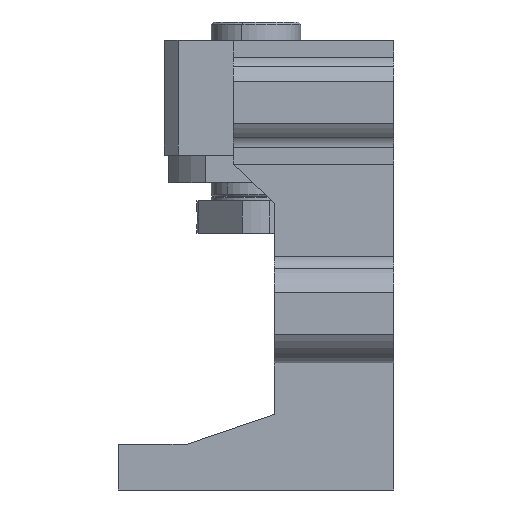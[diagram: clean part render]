
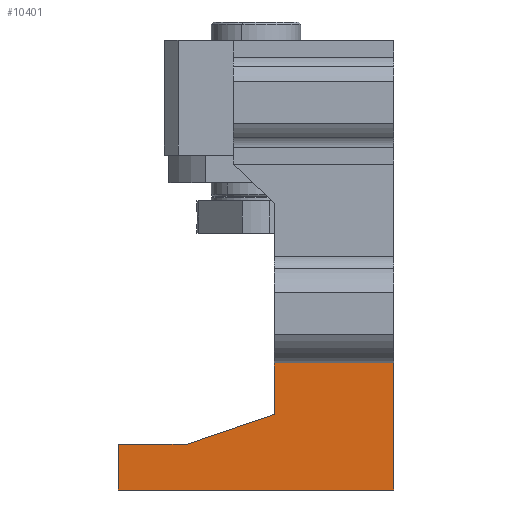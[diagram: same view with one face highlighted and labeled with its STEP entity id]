
A CAD part, left-side view. The second image highlights one B-rep face of the part: STEP entity #10401.
In plain terms, the highlighted planar face has unit normal (-1, 0, 0).
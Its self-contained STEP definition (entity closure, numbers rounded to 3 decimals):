
#122 = EDGE_CURVE ( 'NONE', #1136, #415, #8837, .T. ) ;
#349 = VECTOR ( 'NONE', #8079, 1000. ) ;
#356 = EDGE_CURVE ( 'NONE', #1846, #5336, #10335, .T. ) ;
#415 = VERTEX_POINT ( 'NONE', #10148 ) ;
#854 = ORIENTED_EDGE ( 'NONE', *, *, #2672, .F. ) ;
#871 = CARTESIAN_POINT ( 'NONE',  ( -32., 15., -82. ) ) ;
#1136 = VERTEX_POINT ( 'NONE', #1315 ) ;
#1280 = CARTESIAN_POINT ( 'NONE',  ( -32., -30., -92. ) ) ;
#1315 = CARTESIAN_POINT ( 'NONE',  ( -32., 30., -92. ) ) ;
#1362 = LINE ( 'NONE', #8493, #4214 ) ;
#1392 = CARTESIAN_POINT ( 'NONE',  ( -32., -4., -64.317 ) ) ;
#1417 = ORIENTED_EDGE ( 'NONE', *, *, #6461, .F. ) ;
#1579 = DIRECTION ( 'NONE',  ( 0., 0., -1. ) ) ;
#1846 = VERTEX_POINT ( 'NONE', #1392 ) ;
#1951 = DIRECTION ( 'NONE',  ( 0., -0.946, 0.324 ) ) ;
#2104 = ORIENTED_EDGE ( 'NONE', *, *, #356, .T. ) ;
#2310 = AXIS2_PLACEMENT_3D ( 'NONE', #8362, #13761, #7372 ) ;
#2465 = CARTESIAN_POINT ( 'NONE',  ( -32., -30., -82. ) ) ;
#2672 = EDGE_CURVE ( 'NONE', #12606, #5336, #7145, .T. ) ;
#2858 = LINE ( 'NONE', #2465, #4703 ) ;
#3021 = ORIENTED_EDGE ( 'NONE', *, *, #122, .T. ) ;
#3087 = VERTEX_POINT ( 'NONE', #4716 ) ;
#3512 = LINE ( 'NONE', #5898, #349 ) ;
#4214 = VECTOR ( 'NONE', #9559, 1000. ) ;
#4297 = VECTOR ( 'NONE', #1951, 1000. ) ;
#4703 = VECTOR ( 'NONE', #6681, 1000. ) ;
#4716 = CARTESIAN_POINT ( 'NONE',  ( -32., 30., -82. ) ) ;
#4727 = CARTESIAN_POINT ( 'NONE',  ( -32., -4., -59. ) ) ;
#4883 = CARTESIAN_POINT ( 'NONE',  ( -32., -30., -64.317 ) ) ;
#4886 = FACE_OUTER_BOUND ( 'NONE', #5187, .T. ) ;
#4910 = ORIENTED_EDGE ( 'NONE', *, *, #11899, .F. ) ;
#5187 = EDGE_LOOP ( 'NONE', ( #4910, #2104, #854, #1417, #11982, #3021, #6303 ) ) ;
#5336 = VERTEX_POINT ( 'NONE', #11109 ) ;
#5803 = DIRECTION ( 'NONE',  ( 0., 0., -1. ) ) ;
#5898 = CARTESIAN_POINT ( 'NONE',  ( -32., 19.073, -64.317 ) ) ;
#5982 = VECTOR ( 'NONE', #11846, 1000. ) ;
#6253 = EDGE_CURVE ( 'NONE', #13431, #415, #1362, .T. ) ;
#6290 = PLANE ( 'NONE',  #2310 ) ;
#6303 = ORIENTED_EDGE ( 'NONE', *, *, #6253, .F. ) ;
#6461 = EDGE_CURVE ( 'NONE', #3087, #12606, #2858, .T. ) ;
#6681 = DIRECTION ( 'NONE',  ( 0., -1., 0. ) ) ;
#6894 = CARTESIAN_POINT ( 'NONE',  ( -32., 30., -82. ) ) ;
#7145 = LINE ( 'NONE', #871, #4297 ) ;
#7372 = DIRECTION ( 'NONE',  ( 0., 0., -1. ) ) ;
#8079 = DIRECTION ( 'NONE',  ( 0., -1., 0. ) ) ;
#8362 = CARTESIAN_POINT ( 'NONE',  ( -32., -30., -82. ) ) ;
#8493 = CARTESIAN_POINT ( 'NONE',  ( -32., -30., -82. ) ) ;
#8837 = LINE ( 'NONE', #1280, #5982 ) ;
#9269 = CARTESIAN_POINT ( 'NONE',  ( -32., 15., -82. ) ) ;
#9559 = DIRECTION ( 'NONE',  ( 0., 0., -1. ) ) ;
#9749 = VECTOR ( 'NONE', #1579, 1000. ) ;
#10148 = CARTESIAN_POINT ( 'NONE',  ( -32., -30., -92. ) ) ;
#10215 = EDGE_CURVE ( 'NONE', #3087, #1136, #12923, .T. ) ;
#10335 = LINE ( 'NONE', #4727, #12849 ) ;
#10401 = ADVANCED_FACE ( 'NONE', ( #4886 ), #6290, .F. ) ;
#11109 = CARTESIAN_POINT ( 'NONE',  ( -32., -4., -75.5 ) ) ;
#11846 = DIRECTION ( 'NONE',  ( 0., -1., 0. ) ) ;
#11899 = EDGE_CURVE ( 'NONE', #1846, #13431, #3512, .T. ) ;
#11982 = ORIENTED_EDGE ( 'NONE', *, *, #10215, .T. ) ;
#12606 = VERTEX_POINT ( 'NONE', #9269 ) ;
#12849 = VECTOR ( 'NONE', #5803, 1000. ) ;
#12923 = LINE ( 'NONE', #6894, #9749 ) ;
#13431 = VERTEX_POINT ( 'NONE', #4883 ) ;
#13761 = DIRECTION ( 'NONE',  ( 1., 0., 0. ) ) ;
